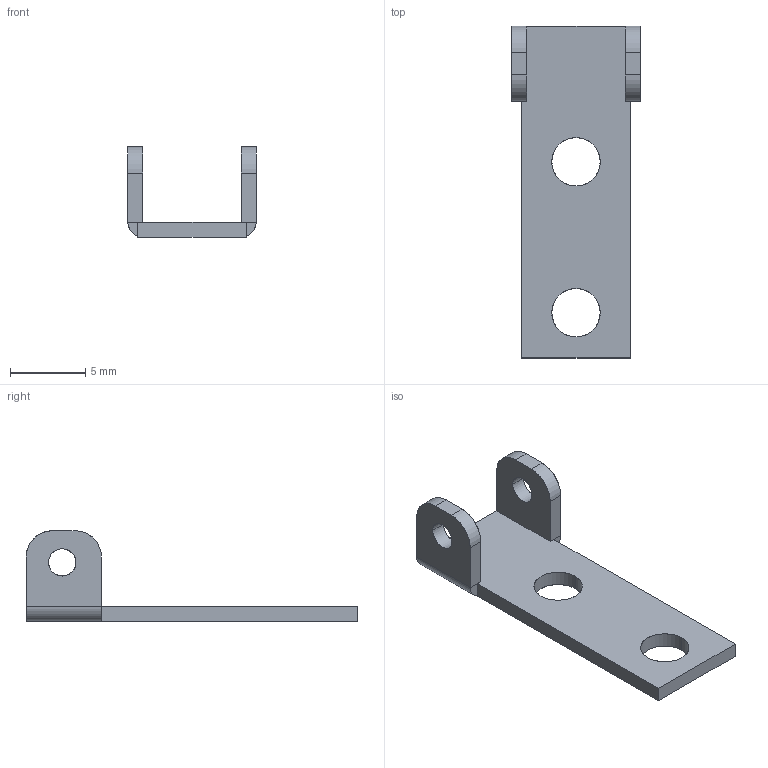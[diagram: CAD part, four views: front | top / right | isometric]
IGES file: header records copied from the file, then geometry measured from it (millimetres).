
Start section: SolidWorks IGES FILE using analytic representation for surfaces
Global section: file name: C:\Documents and Settings\lecoutey\Bureau\GP 69\69.020.00.IGS; native system: SolidWorks 2004 by SolidWorks Corporation; preprocessor: Version 5.3; author: lecoutey; date: 050329.145930; units: millimetre
Bounding box: 8.5 x 22 x 6 mm (x, y, z)
Surface area: 487.8 mm2 (no closed solid volume)
Topology: 0 solids, 0 shells, 38 faces, 508 edges, 508 vertices
Faces by surface type: bspline 24, revolution 14
